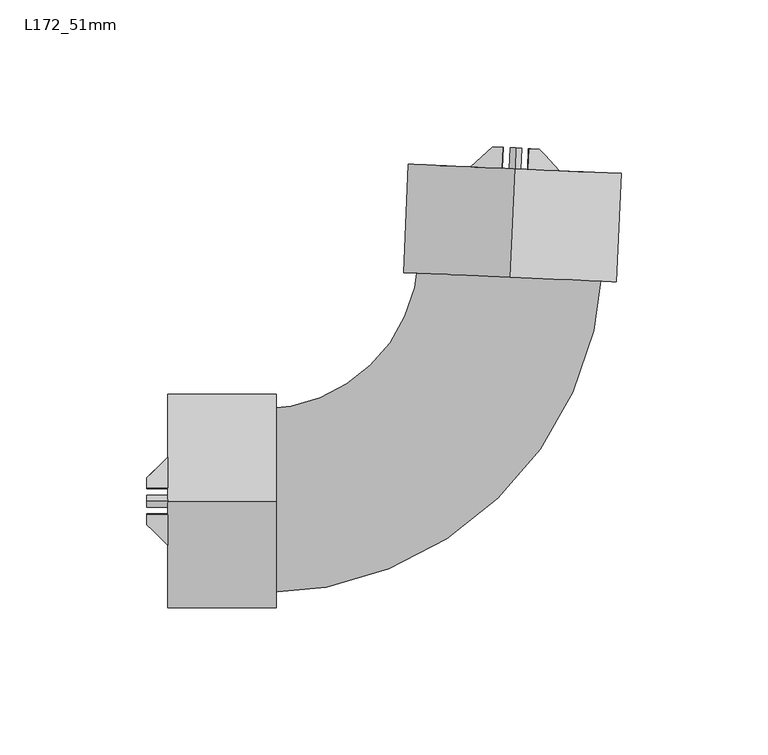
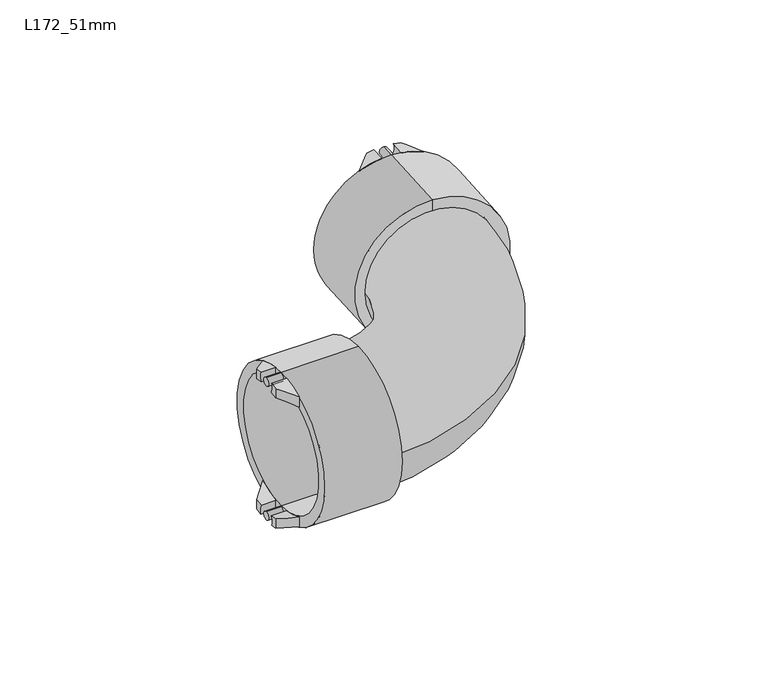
"""IFC4 building model written with IfcOpenShell, lengths in millimetres: pipe fitting geometry, Durapipe_PipeFitting_VulcatheneEnfusion_DoubleSocketLongSweepBend_L17 : L172_51mm."""

from ifc_helpers import new_model, si_unit, point, frame, frame_2d, origin, place, context, project, spatial, polyline, circle_curve, ellipse_curve, trimmed, segment, composite_curve, outline, extrude, source, transform, mapped, element, save
from ifc_brep_helpers import plane_surface, cylinder_surface, revolved_surface, advanced_brep


def l172_51mm_e80dca4b(model_context):
    return source(origin(), model_context, "Body", "SolidModel", [
        advanced_brep(
        [(0.9882691, 120.3412286, -31.2103566), (0.6834598, 120.3545368, -35.8603566), (-2.686348, 120.5016658, -35.2672497), (-2.686348, 120.5016658, -30.482887), (-10.0493261, 113.7163763, -32.8910702), (0.3737621, 113.2612945, -35.8603566), (0.6785714, 113.2479862, -31.2103566), (-10.0493261, 113.7163763, -27.699278)],
        [
            (0, 1, circle_curve(frame((5.2460949, 120.1553279, -33.825), z_axis=(-0.04361938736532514, -0.9990482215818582, 0.0), x_axis=(0.0, 0.0, 1.0)), 5.0)),
            (1, 2, circle_curve(frame((5.2460949, 120.1553279, 0.0), z_axis=(0.04361938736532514, 0.9990482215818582, 0.0), x_axis=(0.0, 0.0, 1.0)), 36.15)),
            (2, 3),
            (3, 0, circle_curve(frame((5.2460949, 120.1553279, 0.0), z_axis=(-0.04361938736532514, -0.9990482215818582, 0.0), x_axis=(0.0, 0.0, 1.0)), 31.5)),
            (4, 5, circle_curve(frame((4.9363973, 113.0620855, 0.0), z_axis=(-0.04361938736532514, -0.9990482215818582, 0.0), x_axis=(0.0, 0.0, 1.0)), 36.15)),
            (5, 6, circle_curve(frame((4.9363973, 113.0620855, -33.825), z_axis=(0.04361938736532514, 0.9990482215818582, 0.0), x_axis=(0.0, 0.0, 1.0)), 5.0)),
            (6, 7, circle_curve(frame((4.9363973, 113.0620855, 0.0), z_axis=(0.04361938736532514, 0.9990482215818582, 0.0), x_axis=(0.0, 0.0, 1.0)), 31.5)),
            (7, 4),
            (6, 0),
            (3, 7, ellipse_curve(frame((5.5943951, 128.1327138, 0.0), z_axis=(-0.6776702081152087, 0.7353659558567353, 0.0), x_axis=(-0.7353659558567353, -0.6776702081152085, 0.0)), 44.674103, 31.5)),
            (4, 2, ellipse_curve(frame((5.5943951, 128.1327138, 0.0), z_axis=(0.6776702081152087, -0.7353659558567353, 0.0), x_axis=(0.7353659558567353, 0.6776702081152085, 0.0)), 51.2688515, 36.15)),
            (1, 5),
        ],
        [
            plane_surface(frame((-9.7396284, 120.8096187, -32.8910702), z_axis=(0.04361938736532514, 0.9990482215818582, 0.0), x_axis=(0.0, 0.0, 1.0))),
            plane_surface(frame((-10.0493261, 113.7163763, -32.8910702), z_axis=(-0.04361938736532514, -0.9990482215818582, 0.0), x_axis=(0.0, 0.0, -1.0))),
            revolved_surface(polyline([(4.212599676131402, 96.4843944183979, 31.5), (6.976190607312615, 159.78103317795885, 31.5)]), (4.9363973, 113.0620855, 0.0), (-0.04361938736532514, -0.9990482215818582, 0.0)),
            cylinder_surface(frame((4.9363973, 113.0620855, 0.0), z_axis=(0.04361938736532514, 0.9990482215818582, 0.0), x_axis=(0.0, 0.0, 1.0)), 36.15),
            revolved_surface(polyline([(5.246094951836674, 120.15532790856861, -28.825000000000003), (4.9363973, 113.0620855, -28.825000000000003)]), (4.9363973, 113.0620855, -33.825), (0.04361938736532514, 0.9990482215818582, 0.0)),
            plane_surface(frame((-10.0493261, 113.7163763, 36.15), z_axis=(-0.6776702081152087, 0.7353659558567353, 0.0), x_axis=(0.0, 0.0, -1.0))),
        ],
        [
            (0, [[1, 2, 3, 4]]),
            (1, [[5, 6, 7, 8]]),
            (2, [[-7, 9, -4, 10]]),
            (3, [[-5, 11, -2, 12]]),
            (4, [[-1, -9, -6, -12]]),
            (5, [[-3, -11, -8, -10]]),
        ],
    ),
        advanced_brep(
        [(9.80873, 119.9561189, -35.8603566), (9.5039208, 119.9694272, -31.2103566), (13.1785378, 119.80899, -30.482887), (13.1785378, 119.80899, -35.2672497), (9.4990324, 112.8628766, -35.8603566), (19.9221206, 112.4077947, -32.8910702), (19.9221206, 112.4077947, -27.699278), (9.1942231, 112.8761848, -31.2103566)],
        [
            (0, 1, circle_curve(frame((5.2460949, 120.1553279, -33.825), z_axis=(-0.04361938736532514, -0.9990482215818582, 0.0), x_axis=(0.0, 0.0, 1.0)), 5.0)),
            (1, 2, circle_curve(frame((5.2460949, 120.1553279, 0.0), z_axis=(-0.04361938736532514, -0.9990482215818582, 0.0), x_axis=(0.0, 0.0, 1.0)), 31.5)),
            (2, 3),
            (3, 0, circle_curve(frame((5.2460949, 120.1553279, 0.0), z_axis=(0.04361938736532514, 0.9990482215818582, 0.0), x_axis=(0.0, 0.0, 1.0)), 36.15)),
            (4, 5, circle_curve(frame((4.9363973, 113.0620855, 0.0), z_axis=(-0.04361938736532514, -0.9990482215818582, 0.0), x_axis=(0.0, 0.0, 1.0)), 36.15)),
            (5, 6),
            (6, 7, circle_curve(frame((4.9363973, 113.0620855, 0.0), z_axis=(0.04361938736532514, 0.9990482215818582, 0.0), x_axis=(0.0, 0.0, 1.0)), 31.5)),
            (7, 4, circle_curve(frame((4.9363973, 113.0620855, -33.825), z_axis=(0.04361938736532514, 0.9990482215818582, 0.0), x_axis=(0.0, 0.0, 1.0)), 5.0)),
            (6, 2, ellipse_curve(frame((5.5943951, 128.1327138, 0.0), z_axis=(0.7391828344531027, 0.6735048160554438, 0.0), x_axis=(0.6735048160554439, -0.7391828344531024, 0.0)), 44.674103, 31.5)),
            (1, 7),
            (4, 0),
            (3, 5, ellipse_curve(frame((5.5943951, 128.1327138, 0.0), z_axis=(-0.7391828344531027, -0.6735048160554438, 0.0), x_axis=(-0.6735048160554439, 0.7391828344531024, 0.0)), 51.2688515, 36.15)),
        ],
        [
            plane_surface(frame((-9.7396284, 120.8096187, -32.8910702), z_axis=(0.04361938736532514, 0.9990482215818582, 0.0), x_axis=(0.0, 0.0, 1.0))),
            plane_surface(frame((-10.0493261, 113.7163763, -32.8910702), z_axis=(-0.04361938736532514, -0.9990482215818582, 0.0), x_axis=(0.0, 0.0, -1.0))),
            revolved_surface(polyline([(4.2125996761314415, 96.4843944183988, 31.5), (6.976190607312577, 159.78103317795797, 31.5)]), (4.9363973, 113.0620855, 0.0), (-0.04361938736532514, -0.9990482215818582, 0.0)),
            cylinder_surface(frame((4.9363973, 113.0620855, 0.0), z_axis=(0.04361938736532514, 0.9990482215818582, 0.0), x_axis=(0.0, 0.0, 1.0)), 36.15),
            revolved_surface(polyline([(5.246094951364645, 120.15532789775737, -28.825000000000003), (4.936397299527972, 113.06208548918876, -28.825000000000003)]), (4.9363973, 113.0620855, -33.825), (0.04361938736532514, 0.9990482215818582, 0.0)),
            plane_surface(frame((13.1785378, 119.80899, 36.15), z_axis=(0.7391828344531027, 0.6735048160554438, 0.0), x_axis=(0.0, 0.0, -1.0))),
        ],
        [
            (0, [[1, 2, 3, 4]]),
            (1, [[5, 6, 7, 8]]),
            (2, [[-7, 9, -2, 10]]),
            (3, [[-5, 11, -4, 12]]),
            (4, [[-1, -11, -8, -10]]),
            (5, [[-3, -9, -6, -12]]),
        ],
    ),
        advanced_brep(
        [(0.6834598, 120.3545368, 35.8603566), (0.9882691, 120.3412286, 31.2103566), (-2.686348, 120.5016658, 30.482887), (-2.686348, 120.5016658, 35.2672497), (0.3737621, 113.2612945, 35.8603566), (-10.0493261, 113.7163763, 32.8910702), (-10.0493261, 113.7163763, 27.699278), (0.6785714, 113.2479862, 31.2103566)],
        [
            (0, 1, circle_curve(frame((5.2460949, 120.1553279, 33.825), z_axis=(-0.04361938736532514, -0.9990482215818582, 0.0), x_axis=(0.0, 0.0, 1.0)), 5.0)),
            (1, 2, circle_curve(frame((5.2460949, 120.1553279, 0.0), z_axis=(-0.04361938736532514, -0.9990482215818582, 0.0), x_axis=(0.0, 0.0, 1.0)), 31.5)),
            (2, 3),
            (3, 0, circle_curve(frame((5.2460949, 120.1553279, 0.0), z_axis=(0.04361938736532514, 0.9990482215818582, 0.0), x_axis=(0.0, 0.0, 1.0)), 36.15)),
            (4, 5, circle_curve(frame((4.9363973, 113.0620855, 0.0), z_axis=(-0.04361938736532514, -0.9990482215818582, 0.0), x_axis=(0.0, 0.0, 1.0)), 36.15)),
            (5, 6),
            (6, 7, circle_curve(frame((4.9363973, 113.0620855, 0.0), z_axis=(0.04361938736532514, 0.9990482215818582, 0.0), x_axis=(0.0, 0.0, 1.0)), 31.5)),
            (7, 4, circle_curve(frame((4.9363973, 113.0620855, 33.825), z_axis=(0.04361938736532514, 0.9990482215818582, 0.0), x_axis=(0.0, 0.0, 1.0)), 5.0)),
            (6, 2, ellipse_curve(frame((5.5943951, 128.1327138, 0.0), z_axis=(-0.6776702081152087, 0.7353659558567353, 0.0), x_axis=(-0.7353659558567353, -0.6776702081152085, 0.0)), 44.674103, 31.5)),
            (1, 7),
            (4, 0),
            (3, 5, ellipse_curve(frame((5.5943951, 128.1327138, 0.0), z_axis=(0.6776702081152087, -0.7353659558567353, 0.0), x_axis=(0.7353659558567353, 0.6776702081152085, 0.0)), 51.2688515, 36.15)),
        ],
        [
            plane_surface(frame((-9.7396284, 120.8096187, -32.8910702), z_axis=(0.04361938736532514, 0.9990482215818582, 0.0), x_axis=(0.0, 0.0, 1.0))),
            plane_surface(frame((-10.0493261, 113.7163763, -32.8910702), z_axis=(-0.04361938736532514, -0.9990482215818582, 0.0), x_axis=(0.0, 0.0, -1.0))),
            revolved_surface(polyline([(4.212599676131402, 96.4843944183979, 31.5), (6.976190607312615, 159.78103317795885, 31.5)]), (4.9363973, 113.0620855, 0.0), (-0.04361938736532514, -0.9990482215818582, 0.0)),
            cylinder_surface(frame((4.9363973, 113.0620855, 0.0), z_axis=(0.04361938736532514, 0.9990482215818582, 0.0), x_axis=(0.0, 0.0, 1.0)), 36.15),
            revolved_surface(polyline([(5.246094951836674, 120.15532790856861, 38.825), (4.9363973, 113.0620855, 38.825)]), (4.9363973, 113.0620855, 33.825), (0.04361938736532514, 0.9990482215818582, 0.0)),
            plane_surface(frame((-10.0493261, 113.7163763, 36.15), z_axis=(-0.6776702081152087, 0.7353659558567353, 0.0), x_axis=(0.0, 0.0, -1.0))),
        ],
        [
            (0, [[1, 2, 3, 4]]),
            (1, [[5, 6, 7, 8]]),
            (2, [[-7, 9, -2, 10]]),
            (3, [[-5, 11, -4, 12]]),
            (4, [[-1, -11, -8, -10]]),
            (5, [[-3, -9, -6, -12]]),
        ],
    ),
        advanced_brep(
        [(9.5039208, 119.9694272, 31.2103566), (9.80873, 119.9561189, 35.8603566), (13.1785378, 119.80899, 35.2672497), (13.1785378, 119.80899, 30.482887), (19.9221206, 112.4077947, 32.8910702), (9.4990324, 112.8628766, 35.8603566), (9.1942231, 112.8761848, 31.2103566), (19.9221206, 112.4077947, 27.699278)],
        [
            (0, 1, circle_curve(frame((5.2460949, 120.1553279, 33.825), z_axis=(-0.04361938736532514, -0.9990482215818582, 0.0), x_axis=(0.0, 0.0, 1.0)), 5.0)),
            (1, 2, circle_curve(frame((5.2460949, 120.1553279, 0.0), z_axis=(0.04361938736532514, 0.9990482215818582, 0.0), x_axis=(0.0, 0.0, 1.0)), 36.15)),
            (2, 3),
            (3, 0, circle_curve(frame((5.2460949, 120.1553279, 0.0), z_axis=(-0.04361938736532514, -0.9990482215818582, 0.0), x_axis=(0.0, 0.0, 1.0)), 31.5)),
            (4, 5, circle_curve(frame((4.9363973, 113.0620855, 0.0), z_axis=(-0.04361938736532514, -0.9990482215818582, 0.0), x_axis=(0.0, 0.0, 1.0)), 36.15)),
            (5, 6, circle_curve(frame((4.9363973, 113.0620855, 33.825), z_axis=(0.04361938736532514, 0.9990482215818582, 0.0), x_axis=(0.0, 0.0, 1.0)), 5.0)),
            (6, 7, circle_curve(frame((4.9363973, 113.0620855, 0.0), z_axis=(0.04361938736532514, 0.9990482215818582, 0.0), x_axis=(0.0, 0.0, 1.0)), 31.5)),
            (7, 4),
            (6, 0),
            (3, 7, ellipse_curve(frame((5.5943951, 128.1327138, 0.0), z_axis=(0.7391828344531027, 0.6735048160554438, 0.0), x_axis=(0.6735048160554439, -0.7391828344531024, 0.0)), 44.674103, 31.5)),
            (4, 2, ellipse_curve(frame((5.5943951, 128.1327138, 0.0), z_axis=(-0.7391828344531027, -0.6735048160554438, 0.0), x_axis=(-0.6735048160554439, 0.7391828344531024, 0.0)), 51.2688515, 36.15)),
            (1, 5),
        ],
        [
            plane_surface(frame((-9.7396284, 120.8096187, -32.8910702), z_axis=(0.04361938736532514, 0.9990482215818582, 0.0), x_axis=(0.0, 0.0, 1.0))),
            plane_surface(frame((-10.0493261, 113.7163763, -32.8910702), z_axis=(-0.04361938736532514, -0.9990482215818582, 0.0), x_axis=(0.0, 0.0, -1.0))),
            revolved_surface(polyline([(4.2125996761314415, 96.4843944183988, 31.5), (6.976190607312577, 159.78103317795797, 31.5)]), (4.9363973, 113.0620855, 0.0), (-0.04361938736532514, -0.9990482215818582, 0.0)),
            cylinder_surface(frame((4.9363973, 113.0620855, 0.0), z_axis=(0.04361938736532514, 0.9990482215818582, 0.0), x_axis=(0.0, 0.0, 1.0)), 36.15),
            revolved_surface(polyline([(5.246094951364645, 120.15532789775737, 38.825), (4.936397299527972, 113.06208548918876, 38.825)]), (4.9363973, 113.0620855, 33.825), (0.04361938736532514, 0.9990482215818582, 0.0)),
            plane_surface(frame((13.1785378, 119.80899, 36.15), z_axis=(0.7391828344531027, 0.6735048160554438, 0.0), x_axis=(0.0, 0.0, -1.0))),
        ],
        [
            (0, [[1, 2, 3, 4]]),
            (1, [[5, 6, 7, 8]]),
            (2, [[-7, 9, -4, 10]]),
            (3, [[-5, 11, -2, 12]]),
            (4, [[-1, -9, -6, -12]]),
            (5, [[-3, -11, -8, -10]]),
        ],
    ),
        extrude(outline(composite_curve([segment(trimmed(circle_curve(frame_2d((0.0, -2.0)), 2.0), [point((0.0, -4.0))], [point((0.0, 0.0))], False, "CARTESIAN"), True, "CONTINUOUS"), segment(trimmed(circle_curve(frame_2d((0.0, -2.0)), 2.0), [point((0.0, 0.0))], [point((0.0, -4.0))], False, "CARTESIAN"), True, "CONTINUOUS")], self_intersect=False)), frame((4.9363973, 113.0620855, -31.825), z_axis=(0.04361938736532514, 0.9990482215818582, 0.0), x_axis=(-0.9990482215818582, 0.04361938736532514, 0.0)), (0.0, 0.0, 1.0), 7.1),
        extrude(outline(composite_curve([segment(trimmed(circle_curve(frame_2d((0.0, 65.65)), 2.0), [point((0.0, 63.65))], [point((0.0, 67.65))], False, "CARTESIAN"), True, "CONTINUOUS"), segment(trimmed(circle_curve(frame_2d((0.0, 65.65)), 2.0), [point((0.0, 67.65))], [point((0.0, 63.65))], False, "CARTESIAN"), True, "CONTINUOUS")], self_intersect=False)), frame((4.9363973, 113.0620855, -31.825), z_axis=(0.04361938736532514, 0.9990482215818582, 0.0), x_axis=(-0.9990482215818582, 0.04361938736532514, 0.0)), (0.0, 0.0, 1.0), 7.1),
        advanced_brep(
        [(3.5493007, 81.2923521, -26.1), (3.5493007, 81.2923521, 26.1), (3.5493007, 81.2923521, 31.35), (3.5493007, 81.2923521, -31.35), (3.3268419, 76.1972061, -26.1), (3.3268419, 76.1972061, 26.1), (3.3268419, 76.1972061, -36.3), (3.3268419, 76.1972061, 36.3), (4.9363973, 113.0620855, -36.3), (4.9363973, 113.0620855, 36.3), (4.9363973, 113.0620855, -31.35), (4.9363973, 113.0620855, 31.35)],
        [
            (0, 1, circle_curve(frame((3.5493007, 81.2923521, 0.0), z_axis=(-0.04361938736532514, -0.9990482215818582, 0.0), x_axis=(0.0, 0.0, 1.0)), 26.1)),
            (1, 2),
            (2, 3, circle_curve(frame((3.5493007, 81.2923521, 0.0), z_axis=(0.04361938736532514, 0.9990482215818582, 0.0), x_axis=(0.0, 0.0, 1.0)), 31.35)),
            (3, 0),
            (1, 0, circle_curve(frame((3.5493007, 81.2923521, 0.0), z_axis=(-0.04361938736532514, -0.9990482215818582, 0.0), x_axis=(0.0, 0.0, 1.0)), 26.1)),
            (3, 2, circle_curve(frame((3.5493007, 81.2923521, 0.0), z_axis=(0.04361938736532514, 0.9990482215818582, 0.0), x_axis=(0.0, 0.0, 1.0)), 31.35)),
            (4, 5, circle_curve(frame((3.3268419, 76.1972061, 0.0), z_axis=(-0.04361938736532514, -0.9990482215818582, 0.0), x_axis=(0.0, 0.0, 1.0)), 26.1)),
            (5, 1),
            (0, 4),
            (5, 4, circle_curve(frame((3.3268419, 76.1972061, 0.0), z_axis=(-0.04361938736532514, -0.9990482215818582, 0.0), x_axis=(0.0, 0.0, 1.0)), 26.1)),
            (6, 7, circle_curve(frame((3.3268419, 76.1972061, 0.0), z_axis=(-0.04361938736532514, -0.9990482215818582, 0.0), x_axis=(0.0, 0.0, 1.0)), 36.3)),
            (7, 5),
            (4, 6),
            (7, 6, circle_curve(frame((3.3268419, 76.1972061, 0.0), z_axis=(-0.04361938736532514, -0.9990482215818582, 0.0), x_axis=(0.0, 0.0, 1.0)), 36.3)),
            (8, 9, circle_curve(frame((4.9363973, 113.0620855, 0.0), z_axis=(-0.04361938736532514, -0.9990482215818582, 0.0), x_axis=(0.0, 0.0, 1.0)), 36.3)),
            (9, 7),
            (6, 8),
            (9, 8, circle_curve(frame((4.9363973, 113.0620855, 0.0), z_axis=(-0.04361938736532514, -0.9990482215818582, 0.0), x_axis=(0.0, 0.0, 1.0)), 36.3)),
            (10, 11, circle_curve(frame((4.9363973, 113.0620855, 0.0), z_axis=(-0.04361938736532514, -0.9990482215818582, 0.0), x_axis=(0.0, 0.0, 1.0)), 31.35)),
            (11, 9),
            (8, 10),
            (11, 10, circle_curve(frame((4.9363973, 113.0620855, 0.0), z_axis=(-0.04361938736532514, -0.9990482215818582, 0.0), x_axis=(0.0, 0.0, 1.0)), 31.35)),
            (2, 11),
            (10, 3),
        ],
        [
            plane_surface(frame((3.5493007, 81.2923521, 0.0), z_axis=(0.04361938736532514, 0.9990482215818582, 0.0), x_axis=(0.0, 0.0, 1.0))),
            revolved_surface(polyline([(3.5493007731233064, 81.29235209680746, 26.1), (3.3268418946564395, 76.19720610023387, 26.1)]), (114.5947792, 2624.6519552, 0.0), (0.04361938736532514, 0.9990482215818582, 0.0)),
            plane_surface(frame((3.3268419, 76.1972061, 0.0), z_axis=(-0.04361938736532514, -0.9990482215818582, 0.0), x_axis=(0.0, 0.0, 1.0))),
            cylinder_surface(frame((114.5947792, 2624.6519552, 0.0), z_axis=(0.04361938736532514, 0.9990482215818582, 0.0), x_axis=(0.0, 0.0, 1.0)), 36.3),
            plane_surface(frame((4.9363973, 113.0620855, 0.0), z_axis=(0.04361938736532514, 0.9990482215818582, 0.0), x_axis=(0.0, 0.0, 1.0))),
            revolved_surface(polyline([(4.936397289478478, 113.06208550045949, 31.35), (3.5493007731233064, 81.29235209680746, 31.35)]), (114.5947792, 2624.6519552, 0.0), (0.04361938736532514, 0.9990482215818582, 0.0)),
        ],
        [
            (0, [[1, 2, 3, 4]]),
            (0, [[5, -4, 6, -2]]),
            (1, [[7, 8, -1, 9]]),
            (1, [[10, -9, -5, -8]]),
            (2, [[11, 12, -7, 13]]),
            (2, [[14, -13, -10, -12]]),
            (3, [[15, 16, -11, 17]]),
            (3, [[18, -17, -14, -16]]),
            (4, [[19, 20, -15, 21]]),
            (4, [[22, -21, -18, -20]]),
            (5, [[-3, 23, -19, 24]]),
            (5, [[-6, -24, -22, -23]]),
        ],
    ),
        advanced_brep(
        [(-120.2697981, -4.2618822, -31.2103566), (-120.2697981, -4.5669819, -35.8603566), (-120.2697981, -7.94, -35.2672497), (-120.2697981, -7.94, -30.482887), (-113.1697981, -15.0, -32.8910702), (-113.1697981, -4.5669819, -35.8603566), (-113.1697981, -4.2618822, -31.2103566), (-113.1697981, -15.0, -27.699278)],
        [
            (0, 1, circle_curve(frame((-120.2697981, 0.0, -33.825), z_axis=(1.0, 0.0, 0.0), x_axis=(0.0, 0.0, 1.0)), 5.0)),
            (1, 2, circle_curve(frame((-120.2697981, 0.0, 0.0), z_axis=(-1.0, 0.0, 0.0), x_axis=(0.0, 0.0, 1.0)), 36.15)),
            (2, 3),
            (3, 0, circle_curve(frame((-120.2697981, 0.0, 0.0), z_axis=(1.0, 0.0, 0.0), x_axis=(0.0, 0.0, 1.0)), 31.5)),
            (4, 5, circle_curve(frame((-113.1697981, 0.0, 0.0), z_axis=(1.0, 0.0, 0.0), x_axis=(0.0, 0.0, 1.0)), 36.15)),
            (5, 6, circle_curve(frame((-113.1697981, 0.0, -33.825), z_axis=(-1.0, 0.0, 0.0), x_axis=(0.0, 0.0, 1.0)), 5.0)),
            (6, 7, circle_curve(frame((-113.1697981, 0.0, 0.0), z_axis=(-1.0, 0.0, 0.0), x_axis=(0.0, 0.0, 1.0)), 31.5)),
            (7, 4),
            (6, 0),
            (3, 7, ellipse_curve(frame((-128.2547839, 0.0, 0.0), z_axis=(-0.705106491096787, -0.7091014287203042, 0.0), x_axis=(0.7091014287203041, -0.7051064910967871, 0.0)), 44.674103, 31.5)),
            (4, 2, ellipse_curve(frame((-128.2547839, 0.0, 0.0), z_axis=(0.705106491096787, 0.7091014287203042, 0.0), x_axis=(-0.7091014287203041, 0.7051064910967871, 0.0)), 51.2688515, 36.15)),
            (1, 5),
        ],
        [
            plane_surface(frame((-120.2697981, -15.0, -32.8910702), z_axis=(-1.0, 0.0, 0.0), x_axis=(0.0, 0.0, 1.0))),
            plane_surface(frame((-113.1697981, -15.0, -32.8910702), z_axis=(1.0, 0.0, 0.0), x_axis=(0.0, 0.0, -1.0))),
            revolved_surface(polyline([(-96.57631363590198, 0.0, 31.5), (-159.93325416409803, 0.0, 31.5)]), (-113.1697981, 0.0, 0.0), (1.0, 0.0, 0.0)),
            cylinder_surface(frame((-113.1697981, 0.0, 0.0), z_axis=(-1.0, 0.0, 0.0), x_axis=(0.0, 0.0, 1.0)), 36.15),
            revolved_surface(polyline([(-120.2697981, 0.0, -28.825000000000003), (-113.1697981, 0.0, -28.825000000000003)]), (-113.1697981, 0.0, -33.825), (-1.0, 0.0, 0.0)),
            plane_surface(frame((-113.1697981, -15.0, 36.15), z_axis=(-0.705106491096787, -0.7091014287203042, 0.0), x_axis=(0.0, 0.0, -1.0))),
        ],
        [
            (0, [[1, 2, 3, 4]]),
            (1, [[5, 6, 7, 8]]),
            (2, [[-7, 9, -4, 10]]),
            (3, [[-5, 11, -2, 12]]),
            (4, [[-1, -9, -6, -12]]),
            (5, [[-3, -11, -8, -10]]),
        ],
    ),
        advanced_brep(
        [(-120.2697981, 4.5669819, -35.8603566), (-120.2697981, 4.2618822, -31.2103566), (-120.2697981, 7.94, -30.482887), (-120.2697981, 7.94, -35.2672497), (-113.1697981, 4.5669819, -35.8603566), (-113.1697981, 15.0, -32.8910702), (-113.1697981, 15.0, -27.699278), (-113.1697981, 4.2618822, -31.2103566)],
        [
            (0, 1, circle_curve(frame((-120.2697981, 0.0, -33.825), z_axis=(1.0, 0.0, 0.0), x_axis=(0.0, 0.0, 1.0)), 5.0)),
            (1, 2, circle_curve(frame((-120.2697981, 0.0, 0.0), z_axis=(1.0, 0.0, 0.0), x_axis=(0.0, 0.0, 1.0)), 31.5)),
            (2, 3),
            (3, 0, circle_curve(frame((-120.2697981, 0.0, 0.0), z_axis=(-1.0, 0.0, 0.0), x_axis=(0.0, 0.0, 1.0)), 36.15)),
            (4, 5, circle_curve(frame((-113.1697981, 0.0, 0.0), z_axis=(1.0, 0.0, 0.0), x_axis=(0.0, 0.0, 1.0)), 36.15)),
            (5, 6),
            (6, 7, circle_curve(frame((-113.1697981, 0.0, 0.0), z_axis=(-1.0, 0.0, 0.0), x_axis=(0.0, 0.0, 1.0)), 31.5)),
            (7, 4, circle_curve(frame((-113.1697981, 0.0, -33.825), z_axis=(-1.0, 0.0, 0.0), x_axis=(0.0, 0.0, 1.0)), 5.0)),
            (6, 2, ellipse_curve(frame((-128.2547839, 0.0, 0.0), z_axis=(-0.7051064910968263, 0.7091014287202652, 0.0), x_axis=(0.7091014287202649, 0.7051064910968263, 0.0)), 44.674103, 31.5)),
            (1, 7),
            (4, 0),
            (3, 5, ellipse_curve(frame((-128.2547839, 0.0, 0.0), z_axis=(0.7051064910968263, -0.7091014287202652, 0.0), x_axis=(-0.7091014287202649, -0.7051064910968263, 0.0)), 51.2688515, 36.15)),
        ],
        [
            plane_surface(frame((-120.2697981, -15.0, -32.8910702), z_axis=(-1.0, 0.0, 0.0), x_axis=(0.0, 0.0, 1.0))),
            plane_surface(frame((-113.1697981, -15.0, -32.8910702), z_axis=(1.0, 0.0, 0.0), x_axis=(0.0, 0.0, -1.0))),
            revolved_surface(polyline([(-96.57631363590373, 0.0, 31.5), (-159.9332541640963, 0.0, 31.5)]), (-113.1697981, 0.0, 0.0), (1.0, 0.0, 0.0)),
            cylinder_surface(frame((-113.1697981, 0.0, 0.0), z_axis=(-1.0, 0.0, 0.0), x_axis=(0.0, 0.0, 1.0)), 36.15),
            revolved_surface(polyline([(-120.2697981, 0.0, -28.825000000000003), (-113.1697981, 0.0, -28.825000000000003)]), (-113.1697981, 0.0, -33.825), (-1.0, 0.0, 0.0)),
            plane_surface(frame((-120.2697981, 7.94, 36.15), z_axis=(-0.7051064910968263, 0.7091014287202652, 0.0), x_axis=(0.0, 0.0, -1.0))),
        ],
        [
            (0, [[1, 2, 3, 4]]),
            (1, [[5, 6, 7, 8]]),
            (2, [[-7, 9, -2, 10]]),
            (3, [[-5, 11, -4, 12]]),
            (4, [[-1, -11, -8, -10]]),
            (5, [[-3, -9, -6, -12]]),
        ],
    ),
        advanced_brep(
        [(-120.2697981, -4.5669819, 35.8603566), (-120.2697981, -4.2618822, 31.2103566), (-120.2697981, -7.94, 30.482887), (-120.2697981, -7.94, 35.2672497), (-113.1697981, -4.5669819, 35.8603566), (-113.1697981, -15.0, 32.8910702), (-113.1697981, -15.0, 27.699278), (-113.1697981, -4.2618822, 31.2103566)],
        [
            (0, 1, circle_curve(frame((-120.2697981, 0.0, 33.825), z_axis=(1.0, 0.0, 0.0), x_axis=(0.0, 0.0, 1.0)), 5.0)),
            (1, 2, circle_curve(frame((-120.2697981, 0.0, 0.0), z_axis=(1.0, 0.0, 0.0), x_axis=(0.0, 0.0, 1.0)), 31.5)),
            (2, 3),
            (3, 0, circle_curve(frame((-120.2697981, 0.0, 0.0), z_axis=(-1.0, 0.0, 0.0), x_axis=(0.0, 0.0, 1.0)), 36.15)),
            (4, 5, circle_curve(frame((-113.1697981, 0.0, 0.0), z_axis=(1.0, 0.0, 0.0), x_axis=(0.0, 0.0, 1.0)), 36.15)),
            (5, 6),
            (6, 7, circle_curve(frame((-113.1697981, 0.0, 0.0), z_axis=(-1.0, 0.0, 0.0), x_axis=(0.0, 0.0, 1.0)), 31.5)),
            (7, 4, circle_curve(frame((-113.1697981, 0.0, 33.825), z_axis=(-1.0, 0.0, 0.0), x_axis=(0.0, 0.0, 1.0)), 5.0)),
            (6, 2, ellipse_curve(frame((-128.2547839, 0.0, 0.0), z_axis=(-0.705106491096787, -0.7091014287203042, 0.0), x_axis=(0.7091014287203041, -0.7051064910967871, 0.0)), 44.674103, 31.5)),
            (1, 7),
            (4, 0),
            (3, 5, ellipse_curve(frame((-128.2547839, 0.0, 0.0), z_axis=(0.705106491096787, 0.7091014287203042, 0.0), x_axis=(-0.7091014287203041, 0.7051064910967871, 0.0)), 51.2688515, 36.15)),
        ],
        [
            plane_surface(frame((-120.2697981, -15.0, -32.8910702), z_axis=(-1.0, 0.0, 0.0), x_axis=(0.0, 0.0, 1.0))),
            plane_surface(frame((-113.1697981, -15.0, -32.8910702), z_axis=(1.0, 0.0, 0.0), x_axis=(0.0, 0.0, -1.0))),
            revolved_surface(polyline([(-96.57631363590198, 0.0, 31.5), (-159.93325416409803, 0.0, 31.5)]), (-113.1697981, 0.0, 0.0), (1.0, 0.0, 0.0)),
            cylinder_surface(frame((-113.1697981, 0.0, 0.0), z_axis=(-1.0, 0.0, 0.0), x_axis=(0.0, 0.0, 1.0)), 36.15),
            revolved_surface(polyline([(-120.2697981, 0.0, 38.825), (-113.1697981, 0.0, 38.825)]), (-113.1697981, 0.0, 33.825), (-1.0, 0.0, 0.0)),
            plane_surface(frame((-113.1697981, -15.0, 36.15), z_axis=(-0.705106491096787, -0.7091014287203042, 0.0), x_axis=(0.0, 0.0, -1.0))),
        ],
        [
            (0, [[1, 2, 3, 4]]),
            (1, [[5, 6, 7, 8]]),
            (2, [[-7, 9, -2, 10]]),
            (3, [[-5, 11, -4, 12]]),
            (4, [[-1, -11, -8, -10]]),
            (5, [[-3, -9, -6, -12]]),
        ],
    ),
        advanced_brep(
        [(-120.2697981, 4.2618822, 31.2103566), (-120.2697981, 4.5669819, 35.8603566), (-120.2697981, 7.94, 35.2672497), (-120.2697981, 7.94, 30.482887), (-113.1697981, 15.0, 32.8910702), (-113.1697981, 4.5669819, 35.8603566), (-113.1697981, 4.2618822, 31.2103566), (-113.1697981, 15.0, 27.699278)],
        [
            (0, 1, circle_curve(frame((-120.2697981, 0.0, 33.825), z_axis=(1.0, 0.0, 0.0), x_axis=(0.0, 0.0, 1.0)), 5.0)),
            (1, 2, circle_curve(frame((-120.2697981, 0.0, 0.0), z_axis=(-1.0, 0.0, 0.0), x_axis=(0.0, 0.0, 1.0)), 36.15)),
            (2, 3),
            (3, 0, circle_curve(frame((-120.2697981, 0.0, 0.0), z_axis=(1.0, 0.0, 0.0), x_axis=(0.0, 0.0, 1.0)), 31.5)),
            (4, 5, circle_curve(frame((-113.1697981, 0.0, 0.0), z_axis=(1.0, 0.0, 0.0), x_axis=(0.0, 0.0, 1.0)), 36.15)),
            (5, 6, circle_curve(frame((-113.1697981, 0.0, 33.825), z_axis=(-1.0, 0.0, 0.0), x_axis=(0.0, 0.0, 1.0)), 5.0)),
            (6, 7, circle_curve(frame((-113.1697981, 0.0, 0.0), z_axis=(-1.0, 0.0, 0.0), x_axis=(0.0, 0.0, 1.0)), 31.5)),
            (7, 4),
            (6, 0),
            (3, 7, ellipse_curve(frame((-128.2547839, 0.0, 0.0), z_axis=(-0.7051064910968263, 0.7091014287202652, 0.0), x_axis=(0.7091014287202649, 0.7051064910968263, 0.0)), 44.674103, 31.5)),
            (4, 2, ellipse_curve(frame((-128.2547839, 0.0, 0.0), z_axis=(0.7051064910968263, -0.7091014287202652, 0.0), x_axis=(-0.7091014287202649, -0.7051064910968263, 0.0)), 51.2688515, 36.15)),
            (1, 5),
        ],
        [
            plane_surface(frame((-120.2697981, -15.0, -32.8910702), z_axis=(-1.0, 0.0, 0.0), x_axis=(0.0, 0.0, 1.0))),
            plane_surface(frame((-113.1697981, -15.0, -32.8910702), z_axis=(1.0, 0.0, 0.0), x_axis=(0.0, 0.0, -1.0))),
            revolved_surface(polyline([(-96.57631363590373, 0.0, 31.5), (-159.9332541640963, 0.0, 31.5)]), (-113.1697981, 0.0, 0.0), (1.0, 0.0, 0.0)),
            cylinder_surface(frame((-113.1697981, 0.0, 0.0), z_axis=(-1.0, 0.0, 0.0), x_axis=(0.0, 0.0, 1.0)), 36.15),
            revolved_surface(polyline([(-120.2697981, 0.0, 38.825), (-113.1697981, 0.0, 38.825)]), (-113.1697981, 0.0, 33.825), (-1.0, 0.0, 0.0)),
            plane_surface(frame((-120.2697981, 7.94, 36.15), z_axis=(-0.7051064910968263, 0.7091014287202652, 0.0), x_axis=(0.0, 0.0, -1.0))),
        ],
        [
            (0, [[1, 2, 3, 4]]),
            (1, [[5, 6, 7, 8]]),
            (2, [[-7, 9, -4, 10]]),
            (3, [[-5, 11, -2, 12]]),
            (4, [[-1, -9, -6, -12]]),
            (5, [[-3, -11, -8, -10]]),
        ],
    ),
        extrude(outline(composite_curve([segment(trimmed(circle_curve(frame_2d((0.0, -33.825)), 2.0), [point((0.0, -35.825))], [point((0.0, -31.825))], False, "CARTESIAN"), True, "CONTINUOUS"), segment(trimmed(circle_curve(frame_2d((0.0, -33.825)), 2.0), [point((0.0, -31.825))], [point((0.0, -35.825))], False, "CARTESIAN"), True, "CONTINUOUS")], self_intersect=False)), frame((-120.2697981, 0.0, 0.0), z_axis=(1.0, 0.0, 0.0), x_axis=(0.0, 1.0, 0.0)), (0.0, 0.0, 1.0), 7.1),
        extrude(outline(composite_curve([segment(trimmed(circle_curve(frame_2d((0.0, 33.825)), 2.0), [point((0.0, 31.825))], [point((0.0, 35.825))], False, "CARTESIAN"), True, "CONTINUOUS"), segment(trimmed(circle_curve(frame_2d((0.0, 33.825)), 2.0), [point((0.0, 35.825))], [point((0.0, 31.825))], False, "CARTESIAN"), True, "CONTINUOUS")], self_intersect=False)), frame((-120.2697981, 0.0, 0.0), z_axis=(1.0, 0.0, 0.0), x_axis=(0.0, 1.0, 0.0)), (0.0, 0.0, 1.0), 7.1),
        advanced_brep(
        [(-81.3697981, 0.0, -26.1), (-81.3697981, 0.0, 26.1), (-81.3697981, 0.0, 31.35), (-81.3697981, 0.0, -31.35), (-76.2697981, 0.0, -26.1), (-76.2697981, 0.0, 26.1), (-76.2697981, 0.0, -36.3), (-76.2697981, 0.0, 36.3), (-113.1697981, 0.0, -36.3), (-113.1697981, 0.0, 36.3), (-113.1697981, 0.0, -31.35), (-113.1697981, 0.0, 31.35)],
        [
            (0, 1, circle_curve(frame((-81.3697981, 0.0, 0.0), z_axis=(1.0, 0.0, 0.0), x_axis=(0.0, 0.0, 1.0)), 26.1)),
            (1, 2),
            (2, 3, circle_curve(frame((-81.3697981, 0.0, 0.0), z_axis=(-1.0, 0.0, 0.0), x_axis=(0.0, 0.0, 1.0)), 31.35)),
            (3, 0),
            (1, 0, circle_curve(frame((-81.3697981, 0.0, 0.0), z_axis=(1.0, 0.0, 0.0), x_axis=(0.0, 0.0, 1.0)), 26.1)),
            (3, 2, circle_curve(frame((-81.3697981, 0.0, 0.0), z_axis=(-1.0, 0.0, 0.0), x_axis=(0.0, 0.0, 1.0)), 31.35)),
            (4, 5, circle_curve(frame((-76.2697981, 0.0, 0.0), z_axis=(1.0, 0.0, 0.0), x_axis=(0.0, 0.0, 1.0)), 26.1)),
            (5, 1),
            (0, 4),
            (5, 4, circle_curve(frame((-76.2697981, 0.0, 0.0), z_axis=(1.0, 0.0, 0.0), x_axis=(0.0, 0.0, 1.0)), 26.1)),
            (6, 7, circle_curve(frame((-76.2697981, 0.0, 0.0), z_axis=(1.0, 0.0, 0.0), x_axis=(0.0, 0.0, 1.0)), 36.3)),
            (7, 5),
            (4, 6),
            (7, 6, circle_curve(frame((-76.2697981, 0.0, 0.0), z_axis=(1.0, 0.0, 0.0), x_axis=(0.0, 0.0, 1.0)), 36.3)),
            (8, 9, circle_curve(frame((-113.1697981, 0.0, 0.0), z_axis=(1.0, 0.0, 0.0), x_axis=(0.0, 0.0, 1.0)), 36.3)),
            (9, 7),
            (6, 8),
            (9, 8, circle_curve(frame((-113.1697981, 0.0, 0.0), z_axis=(1.0, 0.0, 0.0), x_axis=(0.0, 0.0, 1.0)), 36.3)),
            (10, 11, circle_curve(frame((-113.1697981, 0.0, 0.0), z_axis=(1.0, 0.0, 0.0), x_axis=(0.0, 0.0, 1.0)), 31.35)),
            (11, 9),
            (8, 10),
            (11, 10, circle_curve(frame((-113.1697981, 0.0, 0.0), z_axis=(1.0, 0.0, 0.0), x_axis=(0.0, 0.0, 1.0)), 31.35)),
            (2, 11),
            (10, 3),
        ],
        [
            plane_surface(frame((-81.3697981, 0.0, 0.0), z_axis=(-1.0, 0.0, 0.0), x_axis=(0.0, 0.0, 1.0))),
            revolved_surface(polyline([(-81.36979810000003, 0.0, 26.1), (-76.26979810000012, 0.0, 26.1)]), (-2627.1524222, 0.0, 0.0), (-1.0, 0.0, 0.0)),
            plane_surface(frame((-76.2697981, 0.0, 0.0), z_axis=(1.0, 0.0, 0.0), x_axis=(0.0, 0.0, 1.0))),
            cylinder_surface(frame((-2627.1524222, 0.0, 0.0), z_axis=(-1.0, 0.0, 0.0), x_axis=(0.0, 0.0, 1.0)), 36.3),
            plane_surface(frame((-113.1697981, 0.0, 0.0), z_axis=(-1.0, 0.0, 0.0), x_axis=(0.0, 0.0, 1.0))),
            revolved_surface(polyline([(-113.16979810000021, 0.0, 31.35), (-81.36979810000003, 0.0, 31.35)]), (-2627.1524222, 0.0, 0.0), (-1.0, 0.0, 0.0)),
        ],
        [
            (0, [[1, 2, 3, 4]]),
            (0, [[5, -4, 6, -2]]),
            (1, [[7, 8, -1, 9]]),
            (1, [[10, -9, -5, -8]]),
            (2, [[11, 12, -7, 13]]),
            (2, [[14, -13, -10, -12]]),
            (3, [[15, 16, -11, 17]]),
            (3, [[18, -17, -14, -16]]),
            (4, [[19, 20, -15, 21]]),
            (4, [[22, -21, -18, -20]]),
            (5, [[-3, 23, -19, 24]]),
            (5, [[-6, -24, -22, -23]]),
        ],
    ),
        advanced_brep(
        [(-81.3697981, -31.35, 0.0), (-81.3697981, 31.35, 0.0), (-81.3697981, -26.1, 0.0), (-81.3697981, 26.1, 0.0), (34.8694625, 79.9248843, 0.0), (-27.770861, 82.6598199, 0.0), (29.6244593, 80.1538861, 0.0), (-22.5258578, 82.4308181, 0.0)],
        [
            (0, 1, circle_curve(frame((-81.3697981, 0.0, 0.0), z_axis=(-1.0, 0.0, 0.0), x_axis=(0.0, 1.0, 0.0)), 31.35)),
            (1, 0, circle_curve(frame((-81.3697981, 0.0, 0.0), z_axis=(-1.0, 0.0, 0.0), x_axis=(0.0, 1.0, 0.0)), 31.35)),
            (2, 3, circle_curve(frame((-81.3697981, 0.0, 0.0), z_axis=(1.0, 0.0, 0.0), x_axis=(0.0, 1.0, 0.0)), 26.1)),
            (3, 2, circle_curve(frame((-81.3697981, 0.0, 0.0), z_axis=(1.0, 0.0, 0.0), x_axis=(0.0, 1.0, 0.0)), 26.1)),
            (4, 5, circle_curve(frame((3.5493007, 81.2923521, 0.0), z_axis=(0.04361938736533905, 0.9990482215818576, 0.0), x_axis=(-0.9990482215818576, 0.04361938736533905, 0.0)), 31.35)),
            (5, 4, circle_curve(frame((3.5493007, 81.2923521, 0.0), z_axis=(0.04361938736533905, 0.9990482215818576, 0.0), x_axis=(-0.9990482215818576, 0.04361938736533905, 0.0)), 31.35)),
            (6, 7, circle_curve(frame((3.5493007, 81.2923521, 0.0), z_axis=(-0.04361938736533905, -0.9990482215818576, 0.0), x_axis=(-0.9990482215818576, 0.04361938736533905, 0.0)), 26.1)),
            (7, 6, circle_curve(frame((3.5493007, 81.2923521, 0.0), z_axis=(-0.04361938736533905, -0.9990482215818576, 0.0), x_axis=(-0.9990482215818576, 0.04361938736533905, 0.0)), 26.1)),
            (5, 1, circle_curve(frame((-81.3697981, 85.0, 0.0), z_axis=(0.0, 0.0, -1.0), x_axis=(0.0, -1.0, 0.0)), 53.65)),
            (0, 4, circle_curve(frame((-81.3697981, 85.0, 0.0), z_axis=(0.0, 0.0, 1.0), x_axis=(0.0, -1.0, 0.0)), 116.35)),
            (7, 3, circle_curve(frame((-81.3697981, 85.0, 0.0), z_axis=(0.0, 0.0, -1.0), x_axis=(0.0, -1.0, 0.0)), 58.9)),
            (2, 6, circle_curve(frame((-81.3697981, 85.0, 0.0), z_axis=(0.0, 0.0, 1.0), x_axis=(0.0, -1.0, 0.0)), 111.1)),
        ],
        [
            plane_surface(frame((-81.3697981, 0.0, 0.0), z_axis=(-1.0, 0.0, 0.0), x_axis=(0.0, 0.0, 1.0))),
            plane_surface(frame((3.5493007, 81.2923521, 0.0), z_axis=(0.043619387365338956, 0.9990482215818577, 0.0), x_axis=(0.0, 0.0, 1.0))),
            revolved_surface(trimmed(ellipse_curve(frame((-81.3697981, 0.0, 0.0), z_axis=(-1.0, 0.0, 0.0), x_axis=(0.0, 1.0, 0.0)), 31.35, 31.35), [point((-81.3697981, -31.35, 0.0))], [point((-81.3697981, 31.35, 0.0))], True, "CARTESIAN"), (-81.3697981, 85.0, 0.0), (0.0, 0.0, 1.0)),
            revolved_surface(trimmed(ellipse_curve(frame((-81.3697981, 0.0, 0.0), z_axis=(-1.0, 0.0, 0.0), x_axis=(0.0, 1.0, 0.0)), 31.35, 31.35), [point((-81.3697981, 31.35, 0.0))], [point((-81.3697981, -31.35, 0.0))], True, "CARTESIAN"), (-81.3697981, 85.0, 0.0), (0.0, 0.0, 1.0)),
            revolved_surface(trimmed(ellipse_curve(frame((-81.3697981, 0.0, 0.0), z_axis=(1.0, 0.0, 0.0), x_axis=(0.0, 1.0, 0.0)), 26.1, 26.1), [point((-81.3697981, -26.1, 0.0))], [point((-81.3697981, 26.1, 0.0))], True, "CARTESIAN"), (-81.3697981, 85.0, 0.0), (0.0, 0.0, 1.0)),
            revolved_surface(trimmed(ellipse_curve(frame((-81.3697981, 0.0, 0.0), z_axis=(1.0, 0.0, 0.0), x_axis=(0.0, 1.0, 0.0)), 26.1, 26.1), [point((-81.3697981, 26.1, 0.0))], [point((-81.3697981, -26.1, 0.0))], True, "CARTESIAN"), (-81.3697981, 85.0, 0.0), (0.0, 0.0, 1.0)),
        ],
        [
            (0, [[1, 2], [3, 4]]),
            (1, [[5, 6], [7, 8]]),
            (2, [[9, -1, 10, -6]]),
            (3, [[-10, -2, -9, -5]]),
            (4, [[11, -3, 12, -8]]),
            (5, [[-12, -4, -11, -7]]),
        ],
    ),
    ])


if __name__ == "__main__":
    model = new_model("IFC4")
    model_context = context("Model", 3, world=origin())
    ifc_project = project(units=[si_unit("LENGTHUNIT", "METRE", prefix="MILLI")], contexts=[model_context])
    site = spatial("IfcSite", under=ifc_project)
    building = spatial("IfcBuilding", under=site)
    placement = place(None, origin())
    l172_51mm_shape = l172_51mm_e80dca4b(model_context)
    element("IfcPipeFitting", 1, ObjectType="Durapipe_PipeFitting_VulcatheneEnfusion_DoubleSocketLongSweepBend_L17 : L172_51mm", at=placement, inside=building, context=model_context, shape_type="MappedRepresentation", body=[
        mapped(l172_51mm_shape, transform((0.0, 0.0, 0.0), x_axis=(1.0, 0.0, 0.0), y_axis=(0.0, 1.0, 0.0), z_axis=(0.0, 0.0, 1.0))),
    ])
    save(model, "model.ifc")
